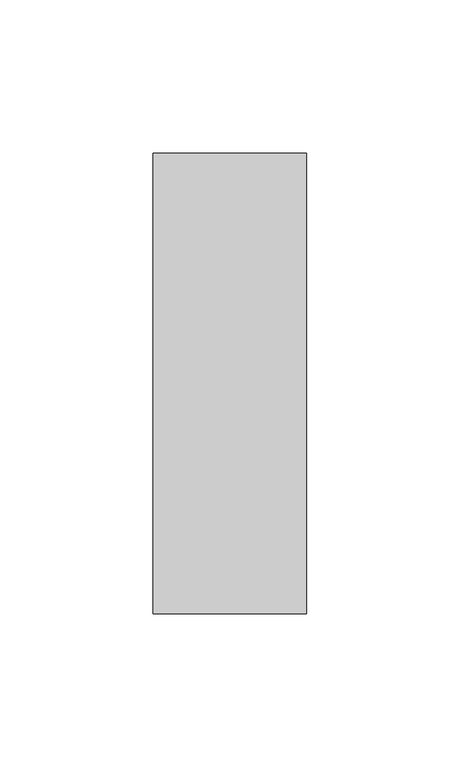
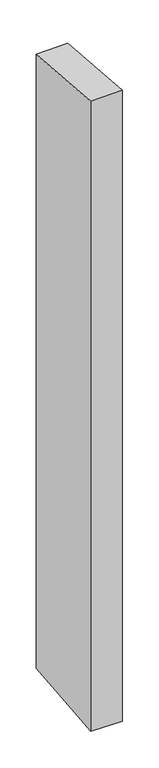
"""IFC4 building model written with IfcOpenShell, lengths in millimetres: member geometry, Прямоугольный импост : 50 x 150 мм."""

from ifc_helpers import new_model, si_unit, origin, place, context, project, spatial, faceted_brep, source, transform, mapped, element, save


def member_c54f31af(model_context):
    return source(origin(), model_context, "Body", "Brep", [
        faceted_brep([(-25.0, 75.0, -6.3341457), (25.0, 75.0, -5.6406149), (25.0, 75.0, -1038.564858), (-25.0, 75.0, -1037.9853484), (-25.0, -75.0, 5.6406149), (-25.0, -75.0, -1053.2727871), (25.0, -75.0, 6.3341457), (25.0, -75.0, -1053.8522967)], [[[0, 1, 2, 3]], [[4, 0, 3, 5]], [[6, 4, 5, 7]], [[1, 6, 7, 2]], [[1, 0, 4, 6]], [[2, 7, 5, 3]]]),
    ])


if __name__ == "__main__":
    model = new_model("IFC4")
    model_context = context("Model", 3, world=origin())
    ifc_project = project(units=[si_unit("LENGTHUNIT", "METRE", prefix="MILLI")], contexts=[model_context])
    site = spatial("IfcSite", under=ifc_project)
    building = spatial("IfcBuilding", under=site)
    placement = place(None, origin())
    member_shape = member_c54f31af(model_context)
    element("IfcMember", 1, ObjectType="Прямоугольный импост : 50 x 150 мм", at=placement, inside=building, context=model_context, shape_type="MappedRepresentation", body=[
        mapped(member_shape, transform((0.0, 0.0, 0.0), x_axis=(1.0, 0.0, 0.0), y_axis=(0.0, 1.0, 0.0), z_axis=(0.0, 0.0, 1.0))),
    ])
    save(model, "model.ifc")
